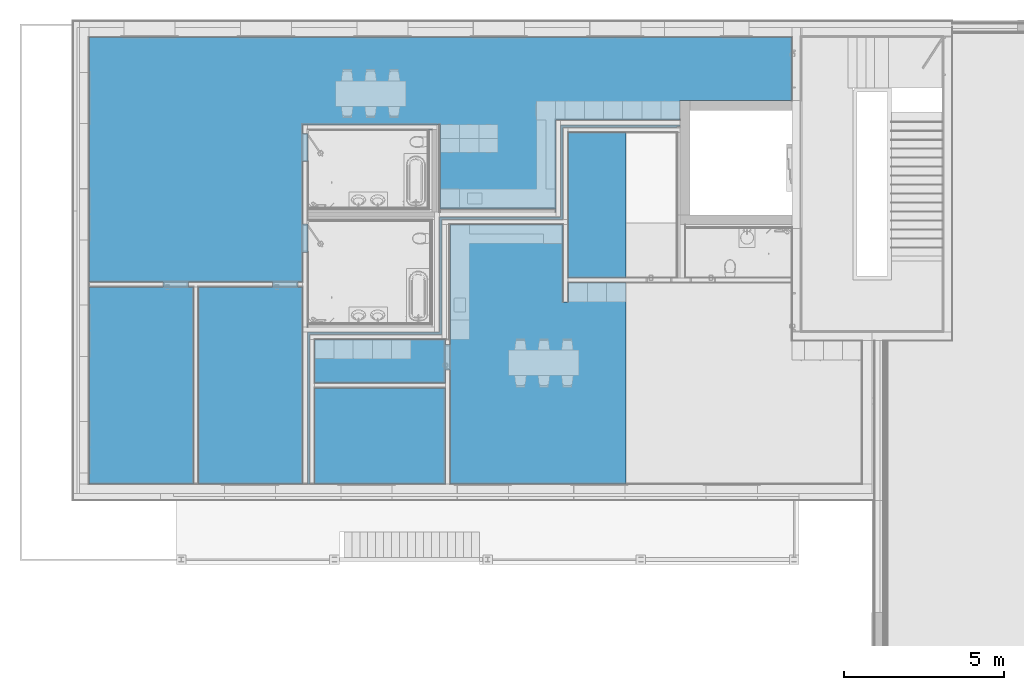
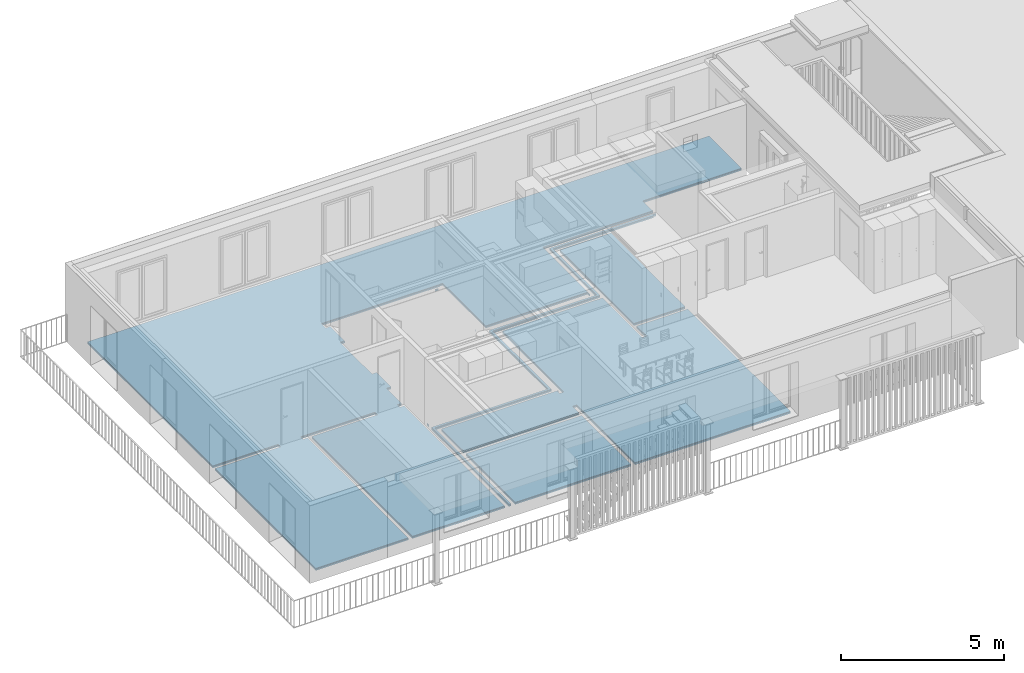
# One storey, part 8 of 34: 2 building element parts, 1 element without a shape of its own.
"""IFC4 building model written with IfcOpenShell, lengths in millimetres."""

from ifc_helpers import new_model, entity, si_unit, converted_unit, derived_unit, direction, frame, origin_with_axes, place, context, subcontext, project, spatial, polygons, material, type_object, element, aggregate, save


model = new_model("IFC4")

# Units and contexts
model_context = context("Model", 3, precision=0.01, world=origin_with_axes(), true_north=direction((0.0, 1.0)))
body_context = subcontext(model_context, "Body", "Model", "MODEL_VIEW")
ifc_project = project(units=[si_unit("LENGTHUNIT", "METRE", prefix="MILLI"), si_unit("AREAUNIT", "SQUARE_METRE"), si_unit("VOLUMEUNIT", "CUBIC_METRE"), converted_unit("PLANEANGLEUNIT", "DEGREE", entity("IfcPlaneAngleMeasure", 0.0174532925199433), si_unit("PLANEANGLEUNIT", "RADIAN"), dimensions=[0, 0, 0, 0, 0, 0, 0]), converted_unit("TIMEUNIT", "Year", entity("IfcTimeMeasure", 31557600.0), si_unit("TIMEUNIT", "SECOND"), dimensions=[0, 0, 1, 0, 0, 0, 0]), si_unit("MASSUNIT", "GRAM", prefix="KILO"), si_unit("THERMODYNAMICTEMPERATUREUNIT", "DEGREE_CELSIUS"), si_unit("LUMINOUSINTENSITYUNIT", "LUMEN"), si_unit("ENERGYUNIT", "JOULE", prefix="MEGA"), derived_unit("THERMALCONDUCTANCEUNIT", [(si_unit("POWERUNIT", "WATT"), 1), (si_unit("LENGTHUNIT", "METRE"), -1), (si_unit("THERMODYNAMICTEMPERATUREUNIT", "KELVIN"), -1)]), derived_unit("SPECIFICHEATCAPACITYUNIT", [(si_unit("ENERGYUNIT", "JOULE"), 1), (si_unit("MASSUNIT", "GRAM", prefix="KILO"), -1), (si_unit("THERMODYNAMICTEMPERATUREUNIT", "KELVIN"), -1)]), derived_unit("MASSDENSITYUNIT", [(si_unit("MASSUNIT", "GRAM", prefix="KILO"), 1), (si_unit("VOLUMEUNIT", "CUBIC_METRE"), -1)])], contexts=[model_context])

# Site, building, storey
site_placement = place(None, origin_with_axes())
site = spatial("IfcSite", under=ifc_project, at=site_placement, Name="Gelände", CompositionType="ELEMENT")
building_placement = place(site_placement, origin_with_axes())
building = spatial("IfcBuilding", under=site, at=building_placement, Name="Gebäude", CompositionType="ELEMENT")
storey_placement = place(building_placement, frame((0.0, 0.0, 5799.999999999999), z_axis=(0.0, 0.0, 1.0), x_axis=(1.0, 0.0, 0.0)))
storey = spatial("IfcBuildingStorey", under=building, at=storey_placement, Name="2.OG", CompositionType="ELEMENT", Elevation=5800.0)

# Covering, building element parts
covering_type = type_object("IfcCoveringType", Name="Bodenaufbau Typ 01 150", PredefinedType="NOTDEFINED")
covering_placement = place(storey_placement, frame((-6561.004181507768, 23457.59674077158, 0.0), z_axis=(0.0, 0.0, 1.0), x_axis=(1.0, 0.0, 0.0)))
covering = element("IfcCovering", 1, at=covering_placement, inside=storey, type_object=covering_type, Name="Decke-007", PredefinedType="NOTDEFINED")
ifc_material_1 = material(Name="Trittschalldämmung")
building_element_part_1_placement = place(covering_placement, origin_with_axes())
building_element_part_1 = element("IfcBuildingElementPart", 2, at=building_element_part_1_placement, material=ifc_material_1, Name="Trittschalldämmung", PredefinedType="NOTDEFINED", context=body_context, shape_type="Tessellation", body=[
    polygons([(16790.00162627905, 11000.00054054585, 49.99999999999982), (16790.00162627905, 11000.00054054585, 80.00000000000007), (16790.00162627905, 6450.000540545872, 80.00000000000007), (16790.00162627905, 6450.000540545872, 49.99999999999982), (14980.00162627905, 11000.00054054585, 80.00000000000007), (14980.00162627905, 11000.00054054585, 49.99999999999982), (14980.00162627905, 8275.000540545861, 80.00000000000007), (14980.00162627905, 8125.000540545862, 80.00000000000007), (14980.00162627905, 6450.000540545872, 80.00000000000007), (14980.00162627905, 6450.000540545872, 49.99999999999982), (14980.00162627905, 8125.000540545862, 49.99999999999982), (14980.00162627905, 8275.000540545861, 49.99999999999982)], [[[1, 2, 3, 4]], [[5, 2, 1, 6]], [[2, 5, 7, 8, 9, 3]], [[9, 10, 4, 3]], [[6, 1, 4, 10, 11, 12]], [[5, 6, 12, 7]], [[7, 12, 11, 8]], [[8, 11, 10, 9]]], closed=True),
    polygons([(10621.77773059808, 8610.000540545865, 80.00000000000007), (10621.77773059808, 8620.000540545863, 80.00000000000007), (10611.77773059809, 8620.000540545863, 80.00000000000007), (10611.77773059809, 8610.000540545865, 80.00000000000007), (10621.77773059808, 8620.000540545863, 49.99999999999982), (10621.77773059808, 8610.000540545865, 49.99999999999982), (10611.77773059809, 8620.000540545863, 49.99999999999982), (10611.77773059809, 8610.000540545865, 49.99999999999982)], [[[1, 2, 3, 4]], [[5, 2, 1, 6]], [[2, 5, 7, 3]], [[3, 7, 8, 4]], [[6, 1, 4, 8]], [[5, 6, 8, 7]]], closed=True),
    polygons([(3420.000000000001, 6167.487519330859, 80.00000000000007), (3420.000000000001, 0.0, 80.00000000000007), (6683.999999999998, 0.0, 80.00000000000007), (6683.999999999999, 4756.776644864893, 80.00000000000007), (6683.999999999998, 4906.776644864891, 80.00000000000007), (6683.999999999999, 6167.487519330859, 80.00000000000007), (6534.0, 6167.487519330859, 80.00000000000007), (6534.0, 6317.487519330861, 80.00000000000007), (6683.999999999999, 6317.487519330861, 80.00000000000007), (6683.999999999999, 7245.000540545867, 80.00000000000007), (6843.999999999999, 7245.000540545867, 80.00000000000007), (6843.999999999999, 8135.000540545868, 80.00000000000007), (6683.999999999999, 8135.000540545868, 80.00000000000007), (6684.0, 10081.46696329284, 80.00000000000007), (6844.0, 10081.46696329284, 80.00000000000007), (6844.0, 10971.46696329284, 80.00000000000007), (6684.0, 10971.46696329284, 80.00000000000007), (6684.0, 11236.46696329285, 80.00000000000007), (6834.000000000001, 11236.46696329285, 80.00000000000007), (10876.77773059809, 11236.46696329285, 80.00000000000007), (10876.77773059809, 11246.46696329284, 80.00000000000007), (10981.77773059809, 11246.46696329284, 80.00000000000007), (10981.77773059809, 8610.000540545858, 80.00000000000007), (14590.00162627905, 8610.000540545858, 80.00000000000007), (14590.00162627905, 8505.000540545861, 80.00000000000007), (14600.00162627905, 8505.000540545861, 80.00000000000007), (14600.00162627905, 11380.00054054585, 80.00000000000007), (14750.00162627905, 11380.00054054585, 80.00000000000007), (18490.00162627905, 11380.00054054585, 80.00000000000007), (18490.00162627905, 11990.00054054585, 80.00000000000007), (21980.00162627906, 11990.00054054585, 80.00000000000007), (21980.00162627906, 13980.00054054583, 80.00000000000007), (0.0, 13980.00054054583, 80.00000000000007), (0.0, 6317.487519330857, 80.00000000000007), (2310.000000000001, 6317.487519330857, 80.00000000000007), (2310.000000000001, 6167.487519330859, 80.00000000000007), (0.0, 6167.487519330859, 80.00000000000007), (0.0, 0.0, 80.00000000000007), (3270.0, 0.0, 80.00000000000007), (3270.0, 6167.487519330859, 80.00000000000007), (3110.000000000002, 6167.487519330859, 80.00000000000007), (3110.000000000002, 6317.487519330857, 80.00000000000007), (5733.999999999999, 6317.487519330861, 80.00000000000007), (5733.999999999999, 6167.487519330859, 80.00000000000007), (3420.000000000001, 6167.487519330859, 49.99999999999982), (3420.000000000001, 0.0, 49.99999999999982), (6683.999999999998, 0.0, 49.99999999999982), (6683.999999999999, 4756.776644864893, 49.99999999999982), (6683.999999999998, 4906.776644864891, 49.99999999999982), (6683.999999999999, 6167.487519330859, 49.99999999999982), (6534.0, 6167.487519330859, 49.99999999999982), (6534.0, 6317.487519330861, 49.99999999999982), (6683.999999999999, 6317.487519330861, 49.99999999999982), (6683.999999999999, 7245.000540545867, 49.99999999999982), (6843.999999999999, 7245.000540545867, 49.99999999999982), (6843.999999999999, 8135.000540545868, 49.99999999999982), (6683.999999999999, 8135.000540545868, 49.99999999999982), (6684.0, 10081.46696329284, 49.99999999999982), (6844.0, 10081.46696329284, 49.99999999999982), (6844.0, 10971.46696329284, 49.99999999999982), (6684.0, 10971.46696329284, 49.99999999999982), (6684.0, 11236.46696329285, 49.99999999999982), (6834.000000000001, 11236.46696329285, 49.99999999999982), (10876.77773059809, 11236.46696329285, 49.99999999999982), (10876.77773059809, 11246.46696329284, 49.99999999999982), (10981.77773059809, 11246.46696329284, 49.99999999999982), (10981.77773059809, 8610.000540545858, 49.99999999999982), (14590.00162627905, 8610.000540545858, 49.99999999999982), (14590.00162627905, 8505.000540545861, 49.99999999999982), (14600.00162627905, 8505.000540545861, 49.99999999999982), (14600.00162627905, 11380.00054054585, 49.99999999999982), (14750.00162627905, 11380.00054054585, 49.99999999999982), (18490.00162627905, 11380.00054054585, 49.99999999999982), (18490.00162627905, 11990.00054054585, 49.99999999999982), (21980.00162627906, 11990.00054054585, 49.99999999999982), (21980.00162627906, 13980.00054054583, 49.99999999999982), (0.0, 13980.00054054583, 49.99999999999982), (0.0, 6317.487519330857, 49.99999999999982), (2310.000000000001, 6317.487519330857, 49.99999999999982), (2310.000000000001, 6167.487519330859, 49.99999999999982), (0.0, 6167.487519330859, 49.99999999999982), (0.0, 0.0, 49.99999999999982), (3270.0, 0.0, 49.99999999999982), (3270.0, 6167.487519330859, 49.99999999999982), (3110.000000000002, 6167.487519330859, 49.99999999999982), (3110.000000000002, 6317.487519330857, 49.99999999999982), (5733.999999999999, 6317.487519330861, 49.99999999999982), (5733.999999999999, 6167.487519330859, 49.99999999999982)], [[[1, 2, 3, 4, 5, 6, 7, 8, 9, 10, 11, 12, 13, 14, 15, 16, 17, 18, 19, 20, 21, 22, 23, 24, 25, 26, 27, 28, 29, 30, 31, 32, 33, 34, 35, 36, 37, 38, 39, 40, 41, 42, 43, 44]], [[2, 1, 45, 46]], [[2, 46, 47, 3]], [[48, 4, 3, 47]], [[4, 48, 49, 5]], [[5, 49, 50, 6]], [[6, 50, 51, 7]], [[8, 7, 51, 52]], [[53, 9, 8, 52]], [[10, 9, 53, 54]], [[11, 10, 54, 55]], [[11, 55, 56, 12]], [[57, 13, 12, 56]], [[14, 13, 57, 58]], [[15, 14, 58, 59]], [[15, 59, 60, 16]], [[61, 17, 16, 60]], [[18, 17, 61, 62]], [[63, 19, 18, 62]], [[64, 20, 19, 63]], [[21, 20, 64, 65]], [[66, 22, 21, 65]], [[23, 22, 66, 67]], [[23, 67, 68, 24]], [[24, 68, 69, 25]], [[25, 69, 70, 26]], [[26, 70, 71, 27]], [[72, 28, 27, 71]], [[28, 72, 73, 29]], [[29, 73, 74, 30]], [[74, 75, 31, 30]], [[75, 76, 32, 31]], [[76, 77, 33, 32]], [[78, 34, 33, 77]], [[35, 34, 78, 79]], [[36, 35, 79, 80]], [[37, 36, 80, 81]], [[37, 81, 82, 38]], [[83, 39, 38, 82]], [[84, 40, 39, 83]], [[40, 84, 85, 41]], [[42, 41, 85, 86]], [[43, 42, 86, 87]], [[44, 43, 87, 88]], [[45, 1, 44, 88]], [[46, 45, 88, 87, 86, 85, 84, 83, 82, 81, 80, 79, 78, 77, 76, 75, 74, 73, 72, 71, 70, 69, 68, 67, 66, 65, 64, 63, 62, 61, 60, 59, 58, 57, 56, 55, 54, 53, 52, 51, 50, 49, 48, 47]]], closed=True),
    polygons([(10726.77773059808, 11076.46696329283, 80.00000000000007), (10726.77773059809, 11086.46696329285, 80.00000000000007), (10611.77773059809, 11086.46696329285, 80.00000000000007), (10611.77773059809, 11076.46696329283, 80.00000000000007), (10726.77773059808, 11076.46696329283, 49.99999999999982), (10726.77773059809, 11086.46696329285, 49.99999999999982), (10611.77773059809, 11086.46696329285, 49.99999999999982), (10611.77773059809, 11076.46696329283, 49.99999999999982)], [[[1, 2, 3, 4]], [[1, 5, 6, 2]], [[2, 6, 7, 3]], [[8, 4, 3, 7]], [[5, 1, 4, 8]], [[5, 8, 7, 6]]], closed=True),
    polygons([(10702.0, 8240.000540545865, 80.00000000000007), (10702.0, 8250.000540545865, 80.00000000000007), (10692.0, 8250.000540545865, 80.00000000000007), (10692.0, 8240.000540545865, 80.00000000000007), (10702.0, 8250.000540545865, 49.99999999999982), (10702.0, 8240.000540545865, 49.99999999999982), (10692.0, 8250.000540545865, 49.99999999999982), (10692.0, 8240.000540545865, 49.99999999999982)], [[[1, 2, 3, 4]], [[5, 2, 1, 6]], [[2, 5, 7, 3]], [[8, 4, 3, 7]], [[6, 1, 4, 8]], [[5, 6, 8, 7]]], closed=True),
    polygons([(6903.99998159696, 0.0, 80.00000000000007), (6903.99998159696, 4526.776644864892, 80.00000000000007), (6903.99998159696, 4676.776644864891, 80.00000000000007), (11037.0, 4676.776644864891, 80.00000000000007), (11037.0, 8125.000540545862, 80.00000000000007), (11037.0, 8275.000540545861, 80.00000000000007), (14830.00162627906, 8275.000540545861, 80.00000000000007), (14830.00162627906, 11150.00054054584, 80.00000000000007), (14980.00162627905, 11150.00054054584, 80.00000000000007), (18385.00162627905, 11150.00054054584, 80.00000000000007), (18385.00162627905, 11190.00054054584, 80.00000000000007), (18490.00162627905, 11190.00054054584, 80.00000000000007), (18490.00162627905, 11230.00054054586, 80.00000000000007), (14750.00162627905, 11230.00054054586, 80.00000000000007), (14750.00162627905, 8355.000540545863, 80.00000000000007), (14600.00162627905, 8355.000540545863, 80.00000000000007), (10957.0, 8355.000540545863, 80.00000000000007), (10957.0, 4756.776644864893, 80.00000000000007), (10807.0, 4756.776644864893, 80.00000000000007), (6833.999999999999, 4756.776644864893, 80.00000000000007), (6833.999999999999, 0.0, 80.00000000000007), (6903.99998159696, 4526.776644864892, 49.99999999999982), (6903.99998159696, 0.0, 49.99999999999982), (6903.99998159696, 4676.776644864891, 49.99999999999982), (11037.0, 4676.776644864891, 49.99999999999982), (11037.0, 8125.000540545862, 49.99999999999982), (11037.0, 8275.000540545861, 49.99999999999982), (14830.00162627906, 8275.000540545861, 49.99999999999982), (14830.00162627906, 11150.00054054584, 49.99999999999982), (14980.00162627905, 11150.00054054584, 49.99999999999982), (18385.00162627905, 11150.00054054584, 49.99999999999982), (18385.00162627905, 11190.00054054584, 49.99999999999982), (18490.00162627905, 11190.00054054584, 49.99999999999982), (18490.00162627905, 11230.00054054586, 49.99999999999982), (14750.00162627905, 11230.00054054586, 49.99999999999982), (14750.00162627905, 8355.000540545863, 49.99999999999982), (14600.00162627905, 8355.000540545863, 49.99999999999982), (10957.0, 8355.000540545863, 49.99999999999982), (10957.0, 4756.776644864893, 49.99999999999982), (10807.0, 4756.776644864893, 49.99999999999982), (6833.999999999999, 4756.776644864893, 49.99999999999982), (6833.999999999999, 0.0, 49.99999999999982)], [[[1, 2, 3, 4, 5, 6, 7, 8, 9, 10, 11, 12, 13, 14, 15, 16, 17, 18, 19, 20, 21]], [[22, 2, 1, 23]], [[2, 22, 24, 3]], [[25, 4, 3, 24]], [[4, 25, 26, 5]], [[5, 26, 27, 6]], [[28, 7, 6, 27]], [[8, 7, 28, 29]], [[30, 9, 8, 29]], [[10, 9, 30, 31]], [[11, 10, 31, 32]], [[33, 12, 11, 32]], [[12, 33, 34, 13]], [[35, 14, 13, 34]], [[15, 14, 35, 36]], [[37, 16, 15, 36]], [[17, 16, 37, 38]], [[17, 38, 39, 18]], [[40, 19, 18, 39]], [[41, 20, 19, 40]], [[21, 20, 41, 42]], [[23, 1, 21, 42]], [[22, 23, 42, 41, 40, 39, 38, 37, 36, 35, 34, 33, 32, 31, 30, 29, 28, 27, 26, 25, 24]]], closed=True),
    polygons([(11142.0, 3010.000000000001, 49.99999999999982), (11142.0, 3010.000000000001, 80.00000000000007), (11142.0, 0.0, 80.00000000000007), (11142.0, 0.0, 49.99999999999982), (7053.99998159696, 3010.000000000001, 80.00000000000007), (7053.99998159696, 3010.000000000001, 49.99999999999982), (7053.99998159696, 0.0, 80.00000000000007), (7053.99998159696, 0.0, 49.99999999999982)], [[[1, 2, 3, 4]], [[5, 2, 1, 6]], [[2, 5, 7, 3]], [[4, 3, 7, 8]], [[6, 1, 4, 8]], [[5, 6, 8, 7]]], closed=True),
    polygons([(6843.999999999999, 4906.776644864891, 80.00000000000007), (6843.999999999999, 5021.77664486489, 80.00000000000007), (6833.999999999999, 5021.77664486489, 80.00000000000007), (6833.999999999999, 4906.776644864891, 80.00000000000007), (6843.999999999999, 4906.776644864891, 49.99999999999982), (6843.999999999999, 5021.77664486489, 49.99999999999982), (6833.999999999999, 5021.77664486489, 49.99999999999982), (6833.999999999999, 4906.776644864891, 49.99999999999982)], [[[1, 2, 3, 4]], [[2, 1, 5, 6]], [[2, 6, 7, 3]], [[8, 4, 3, 7]], [[5, 1, 4, 8]], [[5, 8, 7, 6]]], closed=True),
    polygons([(7053.99998159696, 3160.0, 80.00000000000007), (11142.0, 3160.0, 80.00000000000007), (11142.0, 3566.776644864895, 80.00000000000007), (11292.0, 3566.776644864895, 80.00000000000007), (11292.0, 0.0, 80.00000000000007), (16790.00162627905, 0.0, 80.00000000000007), (16790.00162627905, 6300.000540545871, 80.00000000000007), (14980.00162627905, 6300.000540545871, 80.00000000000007), (14980.00162627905, 5692.00054054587, 80.00000000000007), (14830.00162627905, 5692.00054054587, 80.00000000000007), (14830.00162627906, 8125.000540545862, 80.00000000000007), (11292.0, 8125.000540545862, 80.00000000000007), (11292.0, 4366.776644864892, 80.00000000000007), (11142.0, 4366.776644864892, 80.00000000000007), (11142.0, 4516.776644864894, 80.00000000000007), (11187.0, 4516.776644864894, 80.00000000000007), (11187.0, 4526.776644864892, 80.00000000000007), (11037.0, 4526.776644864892, 80.00000000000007), (7053.999981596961, 4526.776644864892, 80.00000000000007), (11142.0, 3160.0, 49.99999999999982), (7053.99998159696, 3160.0, 49.99999999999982), (11142.0, 3566.776644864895, 49.99999999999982), (11292.0, 3566.776644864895, 49.99999999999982), (11292.0, 0.0, 49.99999999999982), (16790.00162627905, 0.0, 49.99999999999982), (16790.00162627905, 6300.000540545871, 49.99999999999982), (14980.00162627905, 6300.000540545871, 49.99999999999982), (14980.00162627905, 5692.00054054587, 49.99999999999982), (14830.00162627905, 5692.00054054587, 49.99999999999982), (14830.00162627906, 8125.000540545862, 49.99999999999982), (11292.0, 8125.000540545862, 49.99999999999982), (11292.0, 4366.776644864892, 49.99999999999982), (11142.0, 4366.776644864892, 49.99999999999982), (11142.0, 4516.776644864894, 49.99999999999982), (11187.0, 4516.776644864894, 49.99999999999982), (11187.0, 4526.776644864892, 49.99999999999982), (11037.0, 4526.776644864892, 49.99999999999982), (7053.999981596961, 4526.776644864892, 49.99999999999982)], [[[1, 2, 3, 4, 5, 6, 7, 8, 9, 10, 11, 12, 13, 14, 15, 16, 17, 18, 19]], [[20, 2, 1, 21]], [[2, 20, 22, 3]], [[4, 3, 22, 23]], [[5, 4, 23, 24]], [[5, 24, 25, 6]], [[26, 7, 6, 25]], [[27, 8, 7, 26]], [[9, 8, 27, 28]], [[10, 9, 28, 29]], [[30, 11, 10, 29]], [[31, 12, 11, 30]], [[31, 32, 13, 12]], [[14, 13, 32, 33]], [[15, 14, 33, 34]], [[35, 16, 15, 34]], [[16, 35, 36, 17]], [[37, 18, 17, 36]], [[38, 19, 18, 37]], [[21, 1, 19, 38]], [[20, 21, 38, 37, 36, 35, 34, 33, 32, 31, 30, 29, 28, 27, 26, 25, 24, 23, 22]]], closed=True),
])
ifc_material_2 = material(Name="Dämmung Innen")
building_element_part_2_placement = place(covering_placement, origin_with_axes())
building_element_part_2 = element("IfcBuildingElementPart", 3, at=building_element_part_2_placement, material=ifc_material_2, Name="Dämmung Innen", PredefinedType="NOTDEFINED", context=body_context, shape_type="Tessellation", body=[
    polygons([(16790.00162627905, 11000.00054054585, 0.0), (16790.00162627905, 11000.00054054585, 50.00000000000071), (16790.00162627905, 6450.000540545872, 50.00000000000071), (16790.00162627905, 6450.000540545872, 0.0), (14980.00162627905, 11000.00054054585, 50.00000000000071), (14980.00162627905, 11000.00054054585, 0.0), (14980.00162627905, 8275.000540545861, 50.00000000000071), (14980.00162627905, 8125.000540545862, 50.00000000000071), (14980.00162627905, 6450.000540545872, 50.00000000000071), (14980.00162627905, 6450.000540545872, 0.0), (14980.00162627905, 8125.000540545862, 0.0), (14980.00162627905, 8275.000540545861, 0.0)], [[[1, 2, 3, 4]], [[5, 2, 1, 6]], [[2, 5, 7, 8, 9, 3]], [[9, 10, 4, 3]], [[6, 1, 4, 10, 11, 12]], [[5, 6, 12, 7]], [[7, 12, 11, 8]], [[8, 11, 10, 9]]], closed=True),
    polygons([(10621.77773059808, 8610.000540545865, 50.00000000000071), (10621.77773059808, 8620.000540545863, 50.00000000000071), (10611.77773059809, 8620.000540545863, 50.00000000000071), (10611.77773059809, 8610.000540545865, 50.00000000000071), (10621.77773059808, 8620.000540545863, 0.0), (10621.77773059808, 8610.000540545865, 0.0), (10611.77773059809, 8620.000540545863, 0.0), (10611.77773059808, 8610.000540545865, 0.0)], [[[1, 2, 3, 4]], [[5, 2, 1, 6]], [[2, 5, 7, 3]], [[3, 7, 8, 4]], [[6, 1, 4, 8]], [[5, 6, 8, 7]]], closed=True),
    polygons([(3420.000000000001, 6167.487519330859, 50.00000000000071), (3420.000000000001, 0.0, 50.00000000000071), (6683.999999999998, 0.0, 50.00000000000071), (6683.999999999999, 4756.776644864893, 50.00000000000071), (6683.999999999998, 4906.776644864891, 50.00000000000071), (6683.999999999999, 6167.487519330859, 50.00000000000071), (6534.0, 6167.487519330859, 50.00000000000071), (6534.0, 6317.487519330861, 50.00000000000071), (6683.999999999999, 6317.487519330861, 50.00000000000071), (6683.999999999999, 7245.000540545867, 50.00000000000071), (6843.999999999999, 7245.000540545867, 50.00000000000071), (6843.999999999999, 8135.000540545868, 50.00000000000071), (6683.999999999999, 8135.000540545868, 50.00000000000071), (6684.0, 10081.46696329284, 50.00000000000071), (6844.0, 10081.46696329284, 50.00000000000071), (6844.0, 10971.46696329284, 50.00000000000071), (6684.0, 10971.46696329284, 50.00000000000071), (6684.0, 11236.46696329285, 50.00000000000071), (6834.000000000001, 11236.46696329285, 50.00000000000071), (10876.77773059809, 11236.46696329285, 50.00000000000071), (10876.77773059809, 11246.46696329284, 50.00000000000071), (10981.77773059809, 11246.46696329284, 50.00000000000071), (10981.77773059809, 8610.000540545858, 50.00000000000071), (14590.00162627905, 8610.000540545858, 50.00000000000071), (14590.00162627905, 8505.000540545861, 50.00000000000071), (14600.00162627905, 8505.000540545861, 50.00000000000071), (14600.00162627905, 11380.00054054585, 50.00000000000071), (14750.00162627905, 11380.00054054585, 50.00000000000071), (18490.00162627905, 11380.00054054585, 50.00000000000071), (18490.00162627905, 11990.00054054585, 50.00000000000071), (21980.00162627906, 11990.00054054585, 50.00000000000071), (21980.00162627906, 13980.00054054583, 50.00000000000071), (0.0, 13980.00054054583, 50.00000000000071), (0.0, 6317.487519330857, 50.00000000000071), (2310.000000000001, 6317.487519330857, 50.00000000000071), (2310.000000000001, 6167.487519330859, 50.00000000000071), (0.0, 6167.487519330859, 50.00000000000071), (0.0, 0.0, 50.00000000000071), (3270.0, 0.0, 50.00000000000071), (3270.0, 6167.487519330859, 50.00000000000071), (3110.000000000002, 6167.487519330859, 50.00000000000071), (3110.000000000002, 6317.487519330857, 50.00000000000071), (5733.999999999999, 6317.487519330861, 50.00000000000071), (5733.999999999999, 6167.487519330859, 50.00000000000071), (3420.000000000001, 6167.487519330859, 0.0), (3420.000000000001, 0.0, 0.0), (6683.999999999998, 0.0, 0.0), (6683.999999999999, 4756.776644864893, 0.0), (6683.999999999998, 4906.776644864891, 0.0), (6683.999999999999, 6167.487519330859, 0.0), (6534.0, 6167.487519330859, 0.0), (6534.0, 6317.487519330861, 0.0), (6683.999999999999, 6317.487519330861, 0.0), (6683.999999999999, 7245.000540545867, 0.0), (6843.999999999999, 7245.000540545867, 0.0), (6843.999999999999, 8135.000540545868, 0.0), (6683.999999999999, 8135.000540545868, 0.0), (6684.0, 10081.46696329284, 0.0), (6844.0, 10081.46696329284, 0.0), (6844.0, 10971.46696329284, 0.0), (6684.0, 10971.46696329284, 0.0), (6684.0, 11236.46696329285, 0.0), (6834.000000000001, 11236.46696329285, 0.0), (10876.77773059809, 11236.46696329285, 0.0), (10876.77773059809, 11246.46696329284, 0.0), (10981.77773059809, 11246.46696329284, 0.0), (10981.77773059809, 8610.000540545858, 0.0), (14590.00162627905, 8610.000540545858, 0.0), (14590.00162627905, 8505.000540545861, 0.0), (14600.00162627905, 8505.000540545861, 0.0), (14600.00162627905, 11380.00054054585, 0.0), (14750.00162627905, 11380.00054054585, 0.0), (18490.00162627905, 11380.00054054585, 0.0), (18490.00162627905, 11990.00054054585, 0.0), (21980.00162627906, 11990.00054054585, 0.0), (21980.00162627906, 13980.00054054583, 0.0), (0.0, 13980.00054054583, 0.0), (0.0, 6317.487519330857, 0.0), (2310.000000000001, 6317.487519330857, 0.0), (2310.000000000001, 6167.487519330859, 0.0), (0.0, 6167.487519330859, 0.0), (0.0, 0.0, 0.0), (3270.0, 0.0, 0.0), (3270.0, 6167.487519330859, 0.0), (3110.000000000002, 6167.487519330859, 0.0), (3110.000000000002, 6317.487519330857, 0.0), (5733.999999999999, 6317.487519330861, 0.0), (5733.999999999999, 6167.487519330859, 0.0)], [[[1, 2, 3, 4, 5, 6, 7, 8, 9, 10, 11, 12, 13, 14, 15, 16, 17, 18, 19, 20, 21, 22, 23, 24, 25, 26, 27, 28, 29, 30, 31, 32, 33, 34, 35, 36, 37, 38, 39, 40, 41, 42, 43, 44]], [[2, 1, 45, 46]], [[2, 46, 47, 3]], [[48, 4, 3, 47]], [[4, 48, 49, 5]], [[5, 49, 50, 6]], [[6, 50, 51, 7]], [[8, 7, 51, 52]], [[53, 9, 8, 52]], [[10, 9, 53, 54]], [[11, 10, 54, 55]], [[11, 55, 56, 12]], [[57, 13, 12, 56]], [[14, 13, 57, 58]], [[15, 14, 58, 59]], [[15, 59, 60, 16]], [[61, 17, 16, 60]], [[18, 17, 61, 62]], [[63, 19, 18, 62]], [[64, 20, 19, 63]], [[21, 20, 64, 65]], [[66, 22, 21, 65]], [[23, 22, 66, 67]], [[23, 67, 68, 24]], [[24, 68, 69, 25]], [[25, 69, 70, 26]], [[26, 70, 71, 27]], [[72, 28, 27, 71]], [[28, 72, 73, 29]], [[29, 73, 74, 30]], [[30, 74, 75, 31]], [[31, 75, 76, 32]], [[32, 76, 77, 33]], [[78, 34, 33, 77]], [[35, 34, 78, 79]], [[36, 35, 79, 80]], [[37, 36, 80, 81]], [[37, 81, 82, 38]], [[83, 39, 38, 82]], [[84, 40, 39, 83]], [[40, 84, 85, 41]], [[42, 41, 85, 86]], [[43, 42, 86, 87]], [[44, 43, 87, 88]], [[45, 1, 44, 88]], [[46, 45, 88, 87, 86, 85, 84, 83, 82, 81, 80, 79, 78, 77, 76, 75, 74, 73, 72, 71, 70, 69, 68, 67, 66, 65, 64, 63, 62, 61, 60, 59, 58, 57, 56, 55, 54, 53, 52, 51, 50, 49, 48, 47]]], closed=True),
    polygons([(10726.77773059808, 11076.46696329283, 50.00000000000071), (10726.77773059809, 11086.46696329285, 50.00000000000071), (10611.77773059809, 11086.46696329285, 50.00000000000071), (10611.77773059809, 11076.46696329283, 50.00000000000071), (10726.77773059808, 11076.46696329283, 0.0), (10726.77773059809, 11086.46696329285, 0.0), (10611.77773059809, 11086.46696329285, 0.0), (10611.77773059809, 11076.46696329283, 0.0)], [[[1, 2, 3, 4]], [[1, 5, 6, 2]], [[2, 6, 7, 3]], [[8, 4, 3, 7]], [[5, 1, 4, 8]], [[5, 8, 7, 6]]], closed=True),
    polygons([(10702.0, 8240.000540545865, 50.00000000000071), (10702.0, 8250.000540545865, 50.00000000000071), (10692.0, 8250.000540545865, 50.00000000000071), (10692.0, 8240.000540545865, 50.00000000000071), (10702.0, 8250.000540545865, 0.0), (10702.0, 8240.000540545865, 0.0), (10692.0, 8250.000540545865, 0.0), (10692.0, 8240.000540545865, 0.0)], [[[1, 2, 3, 4]], [[5, 2, 1, 6]], [[2, 5, 7, 3]], [[8, 4, 3, 7]], [[6, 1, 4, 8]], [[5, 6, 8, 7]]], closed=True),
    polygons([(6903.99998159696, 0.0, 50.00000000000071), (6903.99998159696, 4526.776644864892, 50.00000000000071), (6903.99998159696, 4676.776644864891, 50.00000000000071), (11037.0, 4676.776644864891, 50.00000000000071), (11037.0, 8125.000540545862, 50.00000000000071), (11037.0, 8275.000540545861, 50.00000000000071), (14830.00162627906, 8275.000540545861, 50.00000000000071), (14830.00162627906, 11150.00054054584, 50.00000000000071), (14980.00162627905, 11150.00054054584, 50.00000000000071), (18385.00162627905, 11150.00054054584, 50.00000000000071), (18385.00162627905, 11190.00054054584, 50.00000000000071), (18490.00162627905, 11190.00054054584, 50.00000000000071), (18490.00162627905, 11230.00054054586, 50.00000000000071), (14750.00162627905, 11230.00054054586, 50.00000000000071), (14750.00162627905, 8355.000540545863, 50.00000000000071), (14600.00162627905, 8355.000540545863, 50.00000000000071), (10957.0, 8355.000540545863, 50.00000000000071), (10957.0, 4756.776644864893, 50.00000000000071), (10807.0, 4756.776644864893, 50.00000000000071), (6833.999999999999, 4756.776644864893, 50.00000000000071), (6833.999999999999, 0.0, 50.00000000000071), (6903.99998159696, 4526.776644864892, 0.0), (6903.99998159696, 0.0, 0.0), (6903.99998159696, 4676.776644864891, 0.0), (11037.0, 4676.776644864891, 0.0), (11037.0, 8125.000540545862, 0.0), (11037.0, 8275.000540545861, 0.0), (14830.00162627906, 8275.000540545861, 0.0), (14830.00162627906, 11150.00054054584, 0.0), (14980.00162627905, 11150.00054054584, 0.0), (18385.00162627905, 11150.00054054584, 0.0), (18385.00162627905, 11190.00054054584, 0.0), (18490.00162627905, 11190.00054054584, 0.0), (18490.00162627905, 11230.00054054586, 0.0), (14750.00162627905, 11230.00054054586, 0.0), (14750.00162627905, 8355.000540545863, 0.0), (14600.00162627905, 8355.000540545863, 0.0), (10957.0, 8355.000540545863, 0.0), (10957.0, 4756.776644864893, 0.0), (10807.0, 4756.776644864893, 0.0), (6833.999999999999, 4756.776644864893, 0.0), (6833.999999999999, 0.0, 0.0)], [[[1, 2, 3, 4, 5, 6, 7, 8, 9, 10, 11, 12, 13, 14, 15, 16, 17, 18, 19, 20, 21]], [[22, 2, 1, 23]], [[2, 22, 24, 3]], [[25, 4, 3, 24]], [[4, 25, 26, 5]], [[5, 26, 27, 6]], [[28, 7, 6, 27]], [[8, 7, 28, 29]], [[30, 9, 8, 29]], [[10, 9, 30, 31]], [[11, 10, 31, 32]], [[33, 12, 11, 32]], [[12, 33, 34, 13]], [[35, 14, 13, 34]], [[15, 14, 35, 36]], [[37, 16, 15, 36]], [[17, 16, 37, 38]], [[17, 38, 39, 18]], [[40, 19, 18, 39]], [[41, 20, 19, 40]], [[21, 20, 41, 42]], [[23, 1, 21, 42]], [[22, 23, 42, 41, 40, 39, 38, 37, 36, 35, 34, 33, 32, 31, 30, 29, 28, 27, 26, 25, 24]]], closed=True),
    polygons([(11142.0, 3010.000000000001, 0.0), (11142.0, 3010.000000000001, 50.00000000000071), (11142.0, 0.0, 50.00000000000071), (11142.0, 0.0, 0.0), (7053.99998159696, 3010.000000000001, 50.00000000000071), (7053.99998159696, 3010.000000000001, 0.0), (7053.99998159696, 0.0, 50.00000000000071), (7053.99998159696, 0.0, 0.0)], [[[1, 2, 3, 4]], [[5, 2, 1, 6]], [[2, 5, 7, 3]], [[4, 3, 7, 8]], [[6, 1, 4, 8]], [[5, 6, 8, 7]]], closed=True),
    polygons([(6843.999999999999, 4906.776644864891, 50.00000000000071), (6843.999999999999, 5021.77664486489, 50.00000000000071), (6833.999999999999, 5021.77664486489, 50.00000000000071), (6833.999999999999, 4906.776644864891, 50.00000000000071), (6843.999999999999, 4906.776644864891, 0.0), (6843.999999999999, 5021.77664486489, 0.0), (6833.999999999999, 5021.77664486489, 0.0), (6833.999999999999, 4906.776644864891, 0.0)], [[[1, 2, 3, 4]], [[2, 1, 5, 6]], [[2, 6, 7, 3]], [[8, 4, 3, 7]], [[5, 1, 4, 8]], [[5, 8, 7, 6]]], closed=True),
    polygons([(7053.99998159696, 3160.0, 50.00000000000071), (11142.0, 3160.0, 50.00000000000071), (11142.0, 3566.776644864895, 50.00000000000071), (11292.0, 3566.776644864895, 50.00000000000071), (11292.0, 0.0, 50.00000000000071), (16790.00162627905, 0.0, 50.00000000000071), (16790.00162627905, 6300.000540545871, 50.00000000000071), (14980.00162627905, 6300.000540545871, 50.00000000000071), (14980.00162627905, 5692.00054054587, 50.00000000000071), (14830.00162627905, 5692.00054054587, 50.00000000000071), (14830.00162627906, 8125.000540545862, 50.00000000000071), (11292.0, 8125.000540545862, 50.00000000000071), (11292.0, 4366.776644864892, 50.00000000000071), (11142.0, 4366.776644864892, 50.00000000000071), (11142.0, 4516.776644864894, 50.00000000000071), (11187.0, 4516.776644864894, 50.00000000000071), (11187.0, 4526.776644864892, 50.00000000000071), (11037.0, 4526.776644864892, 50.00000000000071), (7053.999981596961, 4526.776644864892, 50.00000000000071), (11142.0, 3160.0, 0.0), (7053.99998159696, 3160.0, 0.0), (11142.0, 3566.776644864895, 0.0), (11292.0, 3566.776644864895, 0.0), (11292.0, 0.0, 0.0), (16790.00162627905, 0.0, 0.0), (16790.00162627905, 6300.000540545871, 0.0), (14980.00162627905, 6300.000540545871, 0.0), (14980.00162627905, 5692.00054054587, 0.0), (14830.00162627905, 5692.00054054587, 0.0), (14830.00162627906, 8125.000540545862, 0.0), (11292.0, 8125.000540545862, 0.0), (11292.0, 4366.776644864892, 0.0), (11142.0, 4366.776644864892, 0.0), (11142.0, 4516.776644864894, 0.0), (11187.0, 4516.776644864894, 0.0), (11187.0, 4526.776644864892, 0.0), (11037.0, 4526.776644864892, 0.0), (7053.999981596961, 4526.776644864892, 0.0)], [[[1, 2, 3, 4, 5, 6, 7, 8, 9, 10, 11, 12, 13, 14, 15, 16, 17, 18, 19]], [[20, 2, 1, 21]], [[2, 20, 22, 3]], [[4, 3, 22, 23]], [[5, 4, 23, 24]], [[5, 24, 25, 6]], [[26, 7, 6, 25]], [[27, 8, 7, 26]], [[9, 8, 27, 28]], [[10, 9, 28, 29]], [[30, 11, 10, 29]], [[31, 12, 11, 30]], [[31, 32, 13, 12]], [[14, 13, 32, 33]], [[15, 14, 33, 34]], [[35, 16, 15, 34]], [[16, 35, 36, 17]], [[37, 18, 17, 36]], [[38, 19, 18, 37]], [[21, 1, 19, 38]], [[20, 21, 38, 37, 36, 35, 34, 33, 32, 31, 30, 29, 28, 27, 26, 25, 24, 23, 22]]], closed=True),
])
aggregate(covering, [building_element_part_1, building_element_part_2])

save(model, "model.ifc")
